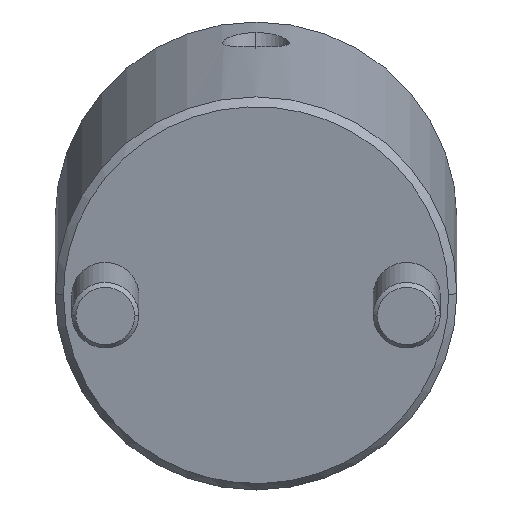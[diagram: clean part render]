
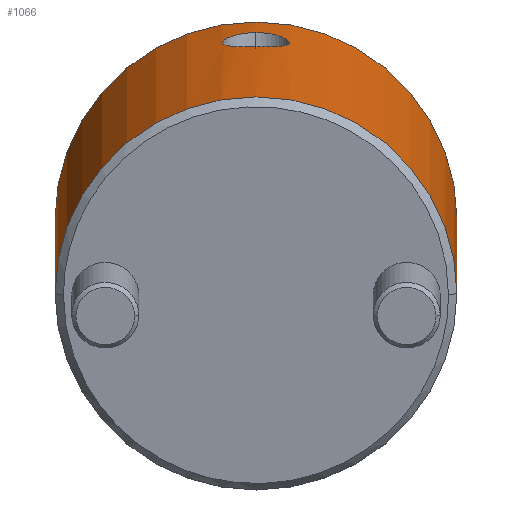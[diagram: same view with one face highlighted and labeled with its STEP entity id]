
A CAD part, front view. The second image highlights one B-rep face of the part: STEP entity #1066.
In plain terms, the highlighted cylindrical face has radius 24 mm (diameter 48 mm), a partial arc.
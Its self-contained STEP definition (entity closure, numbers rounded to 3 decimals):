
#808=CARTESIAN_POINT('Vertex',(0.,24.,1.)) ;
#811=CARTESIAN_POINT('Axis2P3D Location',(0.,0.,1.)) ;
#815=CARTESIAN_POINT('Vertex',(0.,-24.,1.)) ;
#967=CARTESIAN_POINT('Axis2P3D Location',(0.,0.,-2.25)) ;
#972=CARTESIAN_POINT('Line Origine',(0.,24.,-2.25)) ;
#976=CARTESIAN_POINT('Vertex',(0.,24.,44.)) ;
#979=CARTESIAN_POINT('Axis2P3D Location',(0.,0.,44.)) ;
#983=CARTESIAN_POINT('Vertex',(0.,-24.,44.)) ;
#986=CARTESIAN_POINT('Line Origine',(0.,-24.,-2.25)) ;
#998=CARTESIAN_POINT('Control Point',(24.,0.,37.874)) ;
#999=CARTESIAN_POINT('Control Point',(24.,0.58,37.874)) ;
#1000=CARTESIAN_POINT('Control Point',(23.982,1.149,37.764)) ;
#1001=CARTESIAN_POINT('Control Point',(23.948,1.695,37.545)) ;
#1002=CARTESIAN_POINT('Control Point',(23.889,2.357,37.131)) ;
#1003=CARTESIAN_POINT('Control Point',(23.824,2.905,36.568)) ;
#1004=CARTESIAN_POINT('Control Point',(23.807,3.038,36.415)) ;
#1005=CARTESIAN_POINT('Control Point',(23.775,3.282,36.096)) ;
#1006=CARTESIAN_POINT('Control Point',(23.746,3.487,35.749)) ;
#1007=CARTESIAN_POINT('Control Point',(23.732,3.579,35.57)) ;
#1008=CARTESIAN_POINT('Control Point',(23.707,3.741,35.203)) ;
#1009=CARTESIAN_POINT('Control Point',(23.688,3.859,34.82)) ;
#1010=CARTESIAN_POINT('Control Point',(23.68,3.907,34.626)) ;
#1011=CARTESIAN_POINT('Control Point',(23.668,3.979,34.233)) ;
#1012=CARTESIAN_POINT('Control Point',(23.663,4.005,33.833)) ;
#1013=CARTESIAN_POINT('Control Point',(23.663,4.006,33.637)) ;
#1014=CARTESIAN_POINT('Control Point',(23.667,3.985,33.241)) ;
#1015=CARTESIAN_POINT('Control Point',(23.678,3.917,32.853)) ;
#1016=CARTESIAN_POINT('Control Point',(23.686,3.872,32.663)) ;
#1017=CARTESIAN_POINT('Control Point',(23.713,3.702,32.1)) ;
#1018=CARTESIAN_POINT('Control Point',(23.754,3.434,31.578)) ;
#1019=CARTESIAN_POINT('Control Point',(23.786,3.212,31.254)) ;
#1020=CARTESIAN_POINT('Control Point',(23.844,2.759,30.739)) ;
#1021=CARTESIAN_POINT('Control Point',(23.9,2.208,30.333)) ;
#1022=CARTESIAN_POINT('Control Point',(23.922,1.956,30.182)) ;
#1023=CARTESIAN_POINT('Control Point',(23.961,1.43,29.928)) ;
#1024=CARTESIAN_POINT('Control Point',(23.987,0.866,29.773)) ;
#1025=CARTESIAN_POINT('Control Point',(23.996,0.579,29.721)) ;
#1026=CARTESIAN_POINT('Control Point',(24.,0.29,29.695)) ;
#1027=CARTESIAN_POINT('Control Point',(24.,0.,29.695)) ;
#1028=CARTESIAN_POINT('Vertex',(24.,0.,37.874)) ;
#1030=CARTESIAN_POINT('Vertex',(24.,0.,29.695)) ;
#1034=CARTESIAN_POINT('Control Point',(24.,0.,29.695)) ;
#1035=CARTESIAN_POINT('Control Point',(24.,-0.49,29.695)) ;
#1036=CARTESIAN_POINT('Control Point',(23.987,-0.974,29.768)) ;
#1037=CARTESIAN_POINT('Control Point',(23.963,-1.452,29.916)) ;
#1038=CARTESIAN_POINT('Control Point',(23.901,-2.25,30.307)) ;
#1039=CARTESIAN_POINT('Control Point',(23.826,-2.907,30.896)) ;
#1040=CARTESIAN_POINT('Control Point',(23.792,-3.165,31.192)) ;
#1041=CARTESIAN_POINT('Control Point',(23.73,-3.601,31.839)) ;
#1042=CARTESIAN_POINT('Control Point',(23.686,-3.87,32.576)) ;
#1043=CARTESIAN_POINT('Control Point',(23.671,-3.96,32.962)) ;
#1044=CARTESIAN_POINT('Control Point',(23.656,-4.048,33.759)) ;
#1045=CARTESIAN_POINT('Control Point',(23.674,-3.943,34.558)) ;
#1046=CARTESIAN_POINT('Control Point',(23.69,-3.845,34.946)) ;
#1047=CARTESIAN_POINT('Control Point',(23.725,-3.631,35.51)) ;
#1048=CARTESIAN_POINT('Control Point',(23.769,-3.321,36.027)) ;
#1049=CARTESIAN_POINT('Control Point',(23.785,-3.209,36.193)) ;
#1050=CARTESIAN_POINT('Control Point',(23.817,-2.963,36.511)) ;
#1051=CARTESIAN_POINT('Control Point',(23.85,-2.684,36.795)) ;
#1052=CARTESIAN_POINT('Control Point',(23.866,-2.537,36.927)) ;
#1053=CARTESIAN_POINT('Control Point',(23.897,-2.23,37.171)) ;
#1054=CARTESIAN_POINT('Control Point',(23.926,-1.899,37.376)) ;
#1055=CARTESIAN_POINT('Control Point',(23.939,-1.727,37.468)) ;
#1056=CARTESIAN_POINT('Control Point',(23.968,-1.296,37.665)) ;
#1057=CARTESIAN_POINT('Control Point',(23.988,-0.84,37.795)) ;
#1058=CARTESIAN_POINT('Control Point',(23.996,-0.563,37.848)) ;
#1059=CARTESIAN_POINT('Control Point',(24.,-0.283,37.874)) ;
#1060=CARTESIAN_POINT('Control Point',(24.,0.,37.874)) ;
#812=DIRECTION('Axis2P3D Direction',(0.,0.,1.)) ;
#968=DIRECTION('Axis2P3D Direction',(0.,-0.,1.)) ;
#969=DIRECTION('Axis2P3D XDirection',(0.,-1.,0.)) ;
#973=DIRECTION('Vector Direction',(0.,0.,1.)) ;
#980=DIRECTION('Axis2P3D Direction',(0.,-0.,1.)) ;
#987=DIRECTION('Vector Direction',(0.,0.,1.)) ;
#813=AXIS2_PLACEMENT_3D('Circle Axis2P3D',#811,#812,$) ;
#970=AXIS2_PLACEMENT_3D('Cylinder Axis2P3D',#967,#968,#969) ;
#981=AXIS2_PLACEMENT_3D('Circle Axis2P3D',#979,#980,$) ;
#992=ORIENTED_EDGE('',*,*,#978,.F.) ;
#993=ORIENTED_EDGE('',*,*,#985,.T.) ;
#994=ORIENTED_EDGE('',*,*,#990,.T.) ;
#995=ORIENTED_EDGE('',*,*,#817,.F.) ;
#1063=ORIENTED_EDGE('',*,*,#1032,.T.) ;
#1064=ORIENTED_EDGE('',*,*,#1061,.T.) ;
#1065=FACE_BOUND('',#1062,.T.) ;
#974=VECTOR('Line Direction',#973,1.) ;
#988=VECTOR('Line Direction',#987,1.) ;
#1066=ADVANCED_FACE('MANIFOLD_SOLID_BREP #1138',(#996,#1065),#971,.T.) ;
#997=B_SPLINE_CURVE_WITH_KNOTS('',5,(#998,#999,#1000,#1001,#1002,#1003,#1004,#1005,#1006,#1007,#1008,#1009,#1010,#1011,#1012,#1013,#1014,#1015,#1016,#1017,#1018,#1019,#1020,#1021,#1022,#1023,#1024,#1025,#1026,#1027),.UNSPECIFIED.,.F.,.U.,(6,3,3,3,3,3,3,3,3,6),(0.,4.127,5.522,6.925,8.324,9.701,11.081,13.863,15.95,18.011),.UNSPECIFIED.) ;
#1033=B_SPLINE_CURVE_WITH_KNOTS('',5,(#1034,#1035,#1036,#1037,#1038,#1039,#1040,#1041,#1042,#1043,#1044,#1045,#1046,#1047,#1048,#1049,#1050,#1051,#1052,#1053,#1054,#1055,#1056,#1057,#1058,#1059,#1060),.UNSPECIFIED.,.F.,.U.,(6,3,3,3,3,3,3,3,6),(0.,3.481,6.264,9.022,11.811,13.212,14.61,15.999,18.009),.UNSPECIFIED.) ;
#814=CIRCLE('generated circle',#813,24.) ;
#982=CIRCLE('generated circle',#981,24.) ;
#971=CYLINDRICAL_SURFACE('generated cylinder',#970,24.) ;
#817=EDGE_CURVE('',#809,#816,#814,.F.) ;
#978=EDGE_CURVE('',#977,#809,#975,.F.) ;
#985=EDGE_CURVE('',#977,#984,#982,.F.) ;
#990=EDGE_CURVE('',#984,#816,#989,.F.) ;
#1032=EDGE_CURVE('',#1029,#1031,#997,.T.) ;
#1061=EDGE_CURVE('',#1031,#1029,#1033,.T.) ;
#991=EDGE_LOOP('',(#992,#993,#994,#995)) ;
#1062=EDGE_LOOP('',(#1063,#1064)) ;
#996=FACE_OUTER_BOUND('',#991,.T.) ;
#975=LINE('Line',#972,#974) ;
#989=LINE('Line',#986,#988) ;
#809=VERTEX_POINT('',#808) ;
#816=VERTEX_POINT('',#815) ;
#977=VERTEX_POINT('',#976) ;
#984=VERTEX_POINT('',#983) ;
#1029=VERTEX_POINT('',#1028) ;
#1031=VERTEX_POINT('',#1030) ;
